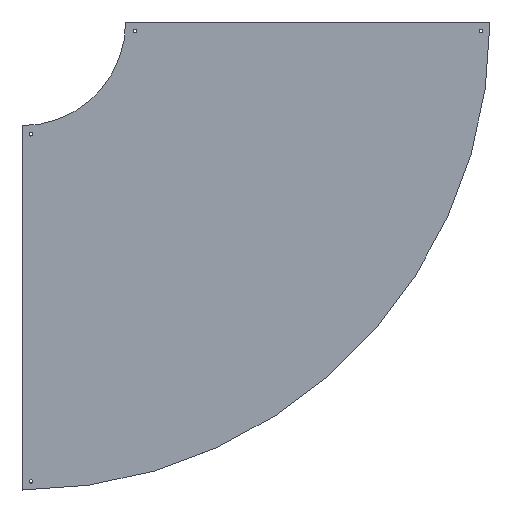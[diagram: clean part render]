
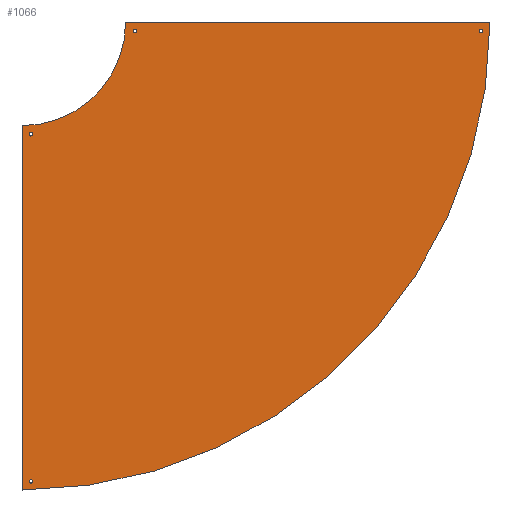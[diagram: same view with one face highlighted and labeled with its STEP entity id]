
A CAD part, top view. The second image highlights one B-rep face of the part: STEP entity #1066.
In plain terms, the highlighted planar face has unit normal (0, 0, 1).
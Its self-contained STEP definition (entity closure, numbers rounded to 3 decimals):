
#49=FACE_BOUND('',#205,.T.);
#50=FACE_BOUND('',#206,.T.);
#51=FACE_BOUND('',#207,.T.);
#52=FACE_BOUND('',#208,.T.);
#63=CIRCLE('',#1156,298.5);
#64=CIRCLE('',#1157,1351.5);
#65=CIRCLE('',#1158,5.);
#66=CIRCLE('',#1159,5.);
#67=CIRCLE('',#1160,5.);
#68=CIRCLE('',#1161,5.);
#69=CIRCLE('',#1162,5.);
#70=CIRCLE('',#1163,5.);
#71=CIRCLE('',#1164,5.);
#72=CIRCLE('',#1165,5.);
#134=FACE_OUTER_BOUND('',#204,.T.);
#204=EDGE_LOOP('',(#826,#827,#828,#829,#830,#831,#832,#833));
#205=EDGE_LOOP('',(#834,#835));
#206=EDGE_LOOP('',(#836,#837));
#207=EDGE_LOOP('',(#838,#839));
#208=EDGE_LOOP('',(#840,#841));
#297=LINE('',#1670,#405);
#298=LINE('',#1673,#406);
#306=LINE('',#1708,#414);
#307=LINE('',#1713,#415);
#308=LINE('',#1715,#416);
#309=LINE('',#1717,#417);
#405=VECTOR('',#1333,304.8);
#406=VECTOR('',#1336,304.8);
#414=VECTOR('',#1368,304.8);
#415=VECTOR('',#1373,304.8);
#416=VECTOR('',#1374,304.8);
#417=VECTOR('',#1375,304.8);
#494=VERTEX_POINT('',#1663);
#497=VERTEX_POINT('',#1668);
#498=VERTEX_POINT('',#1672);
#513=VERTEX_POINT('',#1706);
#514=VERTEX_POINT('',#1710);
#515=VERTEX_POINT('',#1712);
#516=VERTEX_POINT('',#1714);
#517=VERTEX_POINT('',#1716);
#518=VERTEX_POINT('',#1719);
#519=VERTEX_POINT('',#1720);
#520=VERTEX_POINT('',#1723);
#521=VERTEX_POINT('',#1724);
#522=VERTEX_POINT('',#1727);
#523=VERTEX_POINT('',#1728);
#524=VERTEX_POINT('',#1731);
#525=VERTEX_POINT('',#1732);
#609=EDGE_CURVE('',#497,#494,#297,.T.);
#610=EDGE_CURVE('',#494,#498,#298,.T.);
#628=EDGE_CURVE('',#513,#497,#306,.T.);
#629=EDGE_CURVE('',#513,#514,#63,.T.);
#630=EDGE_CURVE('',#514,#515,#307,.T.);
#631=EDGE_CURVE('',#515,#516,#308,.T.);
#632=EDGE_CURVE('',#516,#517,#309,.T.);
#633=EDGE_CURVE('',#517,#498,#64,.T.);
#634=EDGE_CURVE('',#518,#519,#65,.T.);
#635=EDGE_CURVE('',#519,#518,#66,.T.);
#636=EDGE_CURVE('',#520,#521,#67,.T.);
#637=EDGE_CURVE('',#521,#520,#68,.T.);
#638=EDGE_CURVE('',#522,#523,#69,.T.);
#639=EDGE_CURVE('',#523,#522,#70,.T.);
#640=EDGE_CURVE('',#524,#525,#71,.T.);
#641=EDGE_CURVE('',#525,#524,#72,.T.);
#826=ORIENTED_EDGE('',*,*,#609,.F.);
#827=ORIENTED_EDGE('',*,*,#628,.F.);
#828=ORIENTED_EDGE('',*,*,#629,.T.);
#829=ORIENTED_EDGE('',*,*,#630,.T.);
#830=ORIENTED_EDGE('',*,*,#631,.T.);
#831=ORIENTED_EDGE('',*,*,#632,.T.);
#832=ORIENTED_EDGE('',*,*,#633,.T.);
#833=ORIENTED_EDGE('',*,*,#610,.F.);
#834=ORIENTED_EDGE('',*,*,#634,.T.);
#835=ORIENTED_EDGE('',*,*,#635,.T.);
#836=ORIENTED_EDGE('',*,*,#636,.T.);
#837=ORIENTED_EDGE('',*,*,#637,.T.);
#838=ORIENTED_EDGE('',*,*,#638,.T.);
#839=ORIENTED_EDGE('',*,*,#639,.T.);
#840=ORIENTED_EDGE('',*,*,#640,.T.);
#841=ORIENTED_EDGE('',*,*,#641,.T.);
#1018=PLANE('',#1155);
#1066=ADVANCED_FACE('',(#134,#49,#50,#51,#52),#1018,.T.);
#1155=AXIS2_PLACEMENT_3D('',#1709,#1369,#1370);
#1156=AXIS2_PLACEMENT_3D('',#1711,#1371,#1372);
#1157=AXIS2_PLACEMENT_3D('',#1718,#1376,#1377);
#1158=AXIS2_PLACEMENT_3D('',#1721,#1378,#1379);
#1159=AXIS2_PLACEMENT_3D('',#1722,#1380,#1381);
#1160=AXIS2_PLACEMENT_3D('',#1725,#1382,#1383);
#1161=AXIS2_PLACEMENT_3D('',#1726,#1384,#1385);
#1162=AXIS2_PLACEMENT_3D('',#1729,#1386,#1387);
#1163=AXIS2_PLACEMENT_3D('',#1730,#1388,#1389);
#1164=AXIS2_PLACEMENT_3D('',#1733,#1390,#1391);
#1165=AXIS2_PLACEMENT_3D('',#1734,#1392,#1393);
#1333=DIRECTION('',(1.,0.,0.));
#1336=DIRECTION('',(0.,-1.,0.));
#1368=DIRECTION('',(0.,1.,0.));
#1369=DIRECTION('center_axis',(0.,0.,1.));
#1370=DIRECTION('ref_axis',(0.,-1.,0.));
#1371=DIRECTION('center_axis',(0.,0.,-1.));
#1372=DIRECTION('ref_axis',(1.,0.,0.));
#1373=DIRECTION('',(-1.,0.,0.));
#1374=DIRECTION('',(0.,-1.,0.));
#1375=DIRECTION('',(1.,0.,0.));
#1376=DIRECTION('center_axis',(0.,0.,1.));
#1377=DIRECTION('ref_axis',(1.,0.,0.));
#1378=DIRECTION('center_axis',(0.,0.,-1.));
#1379=DIRECTION('ref_axis',(1.,0.,0.));
#1380=DIRECTION('center_axis',(0.,0.,-1.));
#1381=DIRECTION('ref_axis',(1.,0.,0.));
#1382=DIRECTION('center_axis',(0.,0.,-1.));
#1383=DIRECTION('ref_axis',(1.,0.,0.));
#1384=DIRECTION('center_axis',(0.,0.,-1.));
#1385=DIRECTION('ref_axis',(1.,0.,0.));
#1386=DIRECTION('center_axis',(0.,0.,-1.));
#1387=DIRECTION('ref_axis',(1.,0.,0.));
#1388=DIRECTION('center_axis',(0.,0.,-1.));
#1389=DIRECTION('ref_axis',(1.,0.,0.));
#1390=DIRECTION('center_axis',(0.,0.,-1.));
#1391=DIRECTION('ref_axis',(1.,0.,0.));
#1392=DIRECTION('center_axis',(0.,0.,-1.));
#1393=DIRECTION('ref_axis',(1.,0.,0.));
#1663=CARTESIAN_POINT('',(526.5,826.,1.5));
#1668=CARTESIAN_POINT('',(-526.5,826.,1.5));
#1670=CARTESIAN_POINT('',(-526.5,826.,1.5));
#1672=CARTESIAN_POINT('',(526.5,825.,1.5));
#1673=CARTESIAN_POINT('',(526.5,826.,1.5));
#1706=CARTESIAN_POINT('',(-526.5,825.,1.5));
#1708=CARTESIAN_POINT('',(-526.5,826.,1.5));
#1709=CARTESIAN_POINT('Origin',(-526.5,826.,1.5));
#1710=CARTESIAN_POINT('',(-825.,526.5,1.5));
#1711=CARTESIAN_POINT('Origin',(-825.,825.,1.5));
#1712=CARTESIAN_POINT('',(-826.,526.5,1.5));
#1713=CARTESIAN_POINT('',(-825.,526.5,1.5));
#1714=CARTESIAN_POINT('',(-826.,-526.5,1.5));
#1715=CARTESIAN_POINT('',(-826.,-526.5,1.5));
#1716=CARTESIAN_POINT('',(-825.,-526.5,1.5));
#1717=CARTESIAN_POINT('',(-825.,-526.5,1.5));
#1718=CARTESIAN_POINT('Origin',(-825.,825.,1.5));
#1719=CARTESIAN_POINT('',(-795.,501.5,1.5));
#1720=CARTESIAN_POINT('',(-805.,501.5,1.5));
#1721=CARTESIAN_POINT('Origin',(-800.,501.5,1.5));
#1722=CARTESIAN_POINT('Origin',(-800.,501.5,1.5));
#1723=CARTESIAN_POINT('',(-795.,-501.5,1.5));
#1724=CARTESIAN_POINT('',(-805.,-501.5,1.5));
#1725=CARTESIAN_POINT('Origin',(-800.,-501.5,1.5));
#1726=CARTESIAN_POINT('Origin',(-800.,-501.5,1.5));
#1727=CARTESIAN_POINT('',(-495.,800.,1.5));
#1728=CARTESIAN_POINT('',(-505.,800.,1.5));
#1729=CARTESIAN_POINT('Origin',(-500.,800.,1.5));
#1730=CARTESIAN_POINT('Origin',(-500.,800.,1.5));
#1731=CARTESIAN_POINT('',(505.,800.,1.5));
#1732=CARTESIAN_POINT('',(495.,800.,1.5));
#1733=CARTESIAN_POINT('Origin',(500.,800.,1.5));
#1734=CARTESIAN_POINT('Origin',(500.,800.,1.5));
